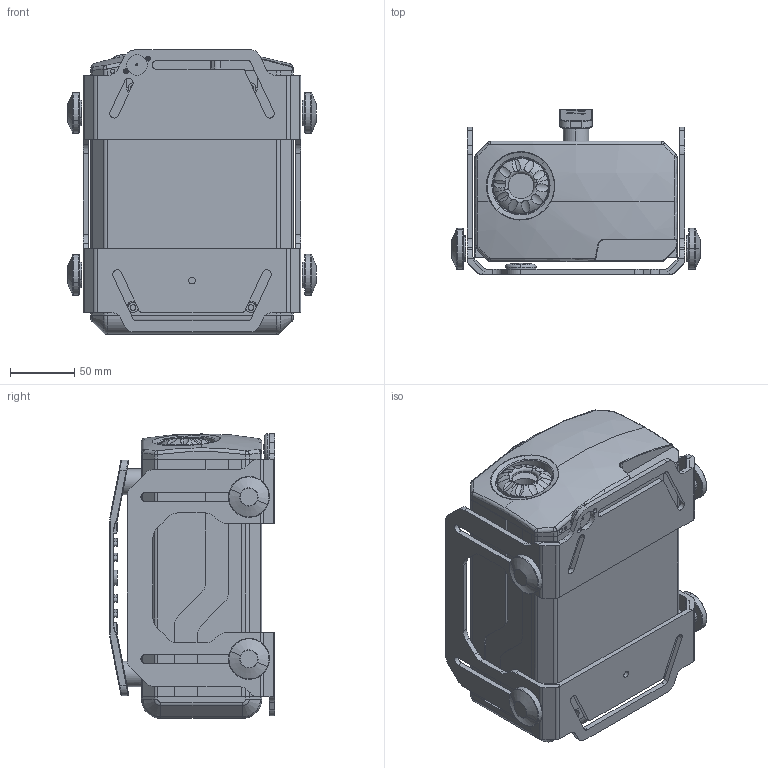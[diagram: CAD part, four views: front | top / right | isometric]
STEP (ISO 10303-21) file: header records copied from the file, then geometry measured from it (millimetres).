
FILE_DESCRIPTION (( 'STEP AP214' ), '1' );
FILE_NAME ('MS-ROC.STEP', '2022-05-13T15:36:17', ( '' ), ( '' ), 'SwSTEP 2.0', 'SolidWorks 2020', '' );
FILE_SCHEMA (( 'AUTOMOTIVE_DESIGN' ));
Length unit declared in the file: millimetre
Products named in the file (1): MS-ROC
Bounding box: 193.9 x 129 x 222.5 mm (x, y, z)
Surface area: 320238.1 mm2 (no closed solid volume)
Topology: 0 solids, 19 shells, 564 faces, 1704 edges, 1157 vertices
Faces by surface type: cylinder 262, plane 199, torus 59, bspline 27, cone 12, sphere 5
Entity records: 29104 total; most frequent: CARTESIAN_POINT 7618, DIRECTION 3278, ORIENTED_EDGE 3007, EDGE_CURVE 1704, AXIS2_PLACEMENT_3D 1195, VERTEX_POINT 1157, LINE 888, VECTOR 888
